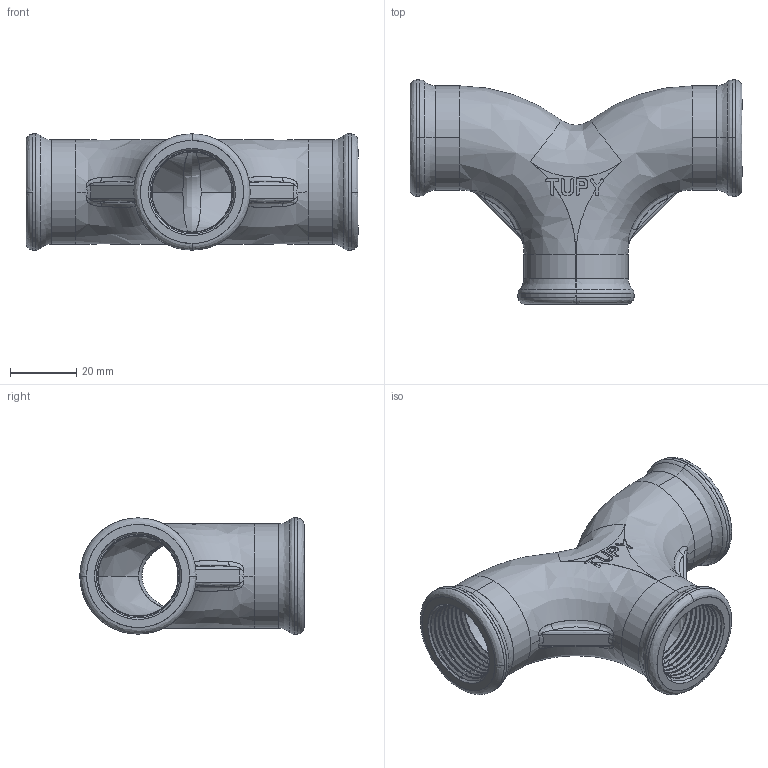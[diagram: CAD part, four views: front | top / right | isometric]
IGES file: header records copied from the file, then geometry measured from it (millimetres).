
Start section: SolidWorks IGES file using analytic representation for surfaces
Global section: file name: C:\Users\Joel Rosa\Desktop\Tubulação\12-55-OK\12-55-006.IGS; native system: SolidWorks 2011; preprocessor: SolidWorks 2011; author: Joel Rosa; date: 131026.210029; units: millimetre
Bounding box: 100 x 67.5 x 35 mm (x, y, z)
Surface area: 26413.1 mm2 (no closed solid volume)
Topology: 0 solids, 0 shells, 424 faces, 3157 edges, 3155 vertices
Faces by surface type: bspline 306, revolution 118
